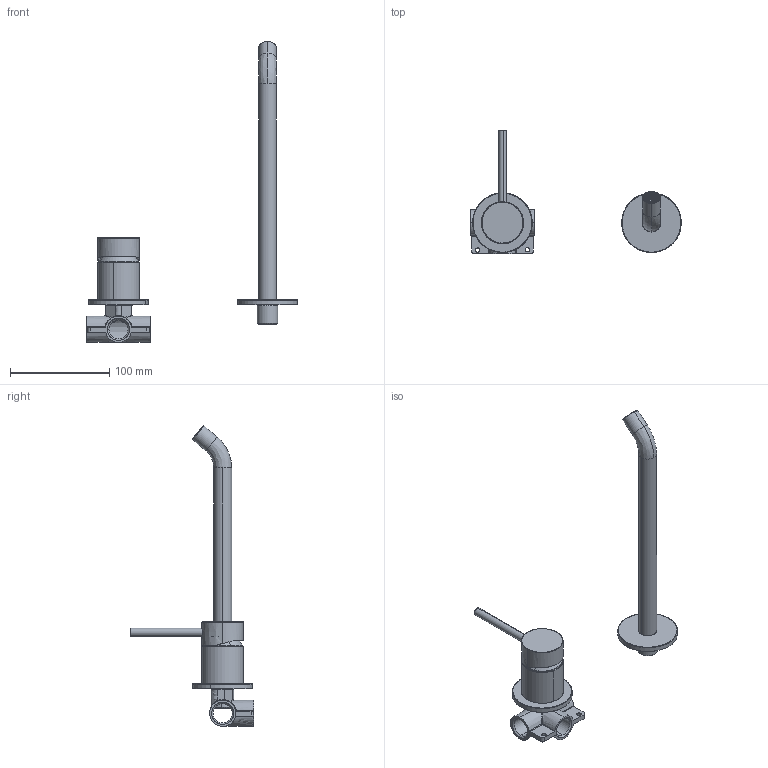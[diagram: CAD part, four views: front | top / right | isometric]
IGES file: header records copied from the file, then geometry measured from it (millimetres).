
Start section: SolidWorks IGES file using analytic representation for surfaces
Global section: file name: \\Sanitexml110\archivi\Fulvio\SolidWorks\PROGETTI\Rubinetteria\Serie INOX\FILE X RENDERING\2021\TH220\TH220-BOCCA LUNGA.IGS; native system: SolidWorks 2021; preprocessor: SolidWorks 2021; author: cadcam2; date: 211227.114318; units: millimetre
Bounding box: 212 x 123.86 x 302.89 mm (x, y, z)
Surface area: 58932.5 mm2 (no closed solid volume)
Topology: 0 solids, 0 shells, 317 faces, 4345 edges, 4318 vertices
Faces by surface type: revolution 174, bspline 143
